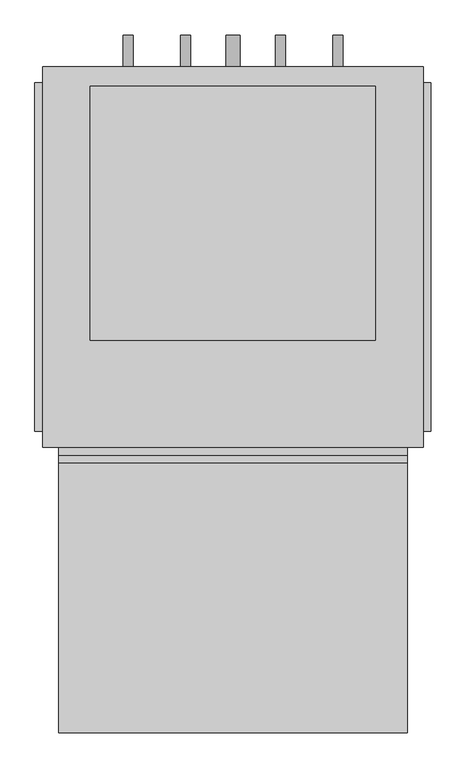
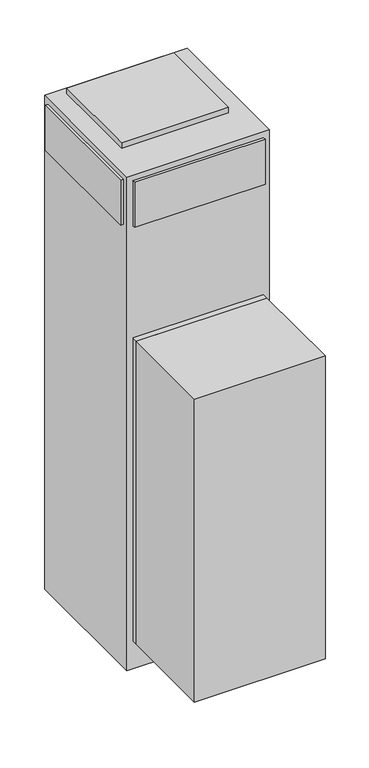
"""IFC4 building model written with IfcOpenShell, lengths in millimetres: proxy geometry, Concealed_Modular_Fan_Coil_Unit_-_MPY_-_IEC_-_4-Pipe_-_NoRisers_2022 : Size 12 - 277v/60Hz/1Ph - 4/1 Coil."""

from ifc_helpers import new_model, si_unit, point, frame, frame_2d, origin, origin_with_axes, place, context, project, spatial, polyline, circle_curve, trimmed, segment, composite_curve, outline, extrude, source, transform, mapped, element, save


def mechanical_equipment_7a065b04(model_context):
    return source(origin(), model_context, "Body", "SweptSolid", [
        extrude(outline(polyline([(1305.3480703, 215.9), (1295.4, 248.0733866), (1437.5709244, 248.0733866), (1414.5489183, 215.9), (1305.3480703, 215.9)])), frame((0.0, -393.7, 0.0), z_axis=(0.0, 1.0, 0.0), x_axis=(0.0, 0.0, 1.0)), (0.0, 0.0, 1.0), 3.175),
        extrude(outline(polyline([(1384.3473557, 254.8317195), (1381.1449632, 280.9131138), (1410.3738042, 280.9131138), (1418.4382193, 254.8317195), (1384.3473557, 254.8317195)])), frame((0.0, -393.7, 0.0), z_axis=(0.0, 1.0, 0.0), x_axis=(0.0, 0.0, 1.0)), (0.0, 0.0, 1.0), 3.175),
        extrude(outline(polyline([(1332.4838288, 280.9131138), (1328.8183279, 254.8317195), (1295.4, 254.8317195), (1304.0342372, 280.9131138), (1332.4838288, 280.9131138)])), frame((0.0, -393.7, 0.0), z_axis=(0.0, 1.0, 0.0), x_axis=(0.0, 0.0, 1.0)), (0.0, 0.0, 1.0), 3.175),
        extrude(outline(polyline([(1371.7989903, 280.9131138), (1374.0808166, 254.8317195), (1338.1432681, 254.8317195), (1340.8845331, 280.9131138), (1371.7989903, 280.9131138)])), frame((0.0, -393.7, 0.0), z_axis=(0.0, 1.0, 0.0), x_axis=(0.0, 0.0, 1.0)), (0.0, 0.0, 1.0), 3.175),
        extrude(outline(polyline([(736.6, -822.325), (177.8, -822.325), (177.8, -390.525), (736.6, -390.525), (736.6, -822.325)])), frame((0.0, 0.0, 127.0), z_axis=(0.0, 0.0, 1.0), x_axis=(1.0, 0.0, 0.0)), (0.0, 0.0, 1.0), 1371.6),
        extrude(outline(composite_curve([segment(trimmed(circle_curve(frame_2d((990.6, 625.475)), 7.9375), [point((990.6, 617.5375))], [point((990.6, 633.4125))], False, "CARTESIAN"), True, "CONTINUOUS"), segment(trimmed(circle_curve(frame_2d((990.6, 625.475)), 7.9375), [point((990.6, 633.4125))], [point((990.6, 617.5375))], False, "CARTESIAN"), True, "CONTINUOUS")], self_intersect=False)), frame((0.0, 244.475, 0.0), z_axis=(0.0, 1.0, 0.0), x_axis=(0.0, 0.0, 1.0)), (0.0, 0.0, 1.0), 50.8),
        extrude(outline(composite_curve([segment(trimmed(circle_curve(frame_2d((990.6, 533.4)), 7.9375), [point((990.6, 525.4625))], [point((990.6, 541.3375))], False, "CARTESIAN"), True, "CONTINUOUS"), segment(trimmed(circle_curve(frame_2d((990.6, 533.4)), 7.9375), [point((990.6, 541.3375))], [point((990.6, 525.4625))], False, "CARTESIAN"), True, "CONTINUOUS")], self_intersect=False)), frame((0.0, 244.475, 0.0), z_axis=(0.0, 1.0, 0.0), x_axis=(0.0, 0.0, 1.0)), (0.0, 0.0, 1.0), 50.8),
        extrude(outline(composite_curve([segment(trimmed(circle_curve(frame_2d((990.6, 381.0)), 7.9375), [point((990.6, 373.0625))], [point((990.6, 388.9375))], False, "CARTESIAN"), True, "CONTINUOUS"), segment(trimmed(circle_curve(frame_2d((990.6, 381.0)), 7.9375), [point((990.6, 388.9375))], [point((990.6, 373.0625))], False, "CARTESIAN"), True, "CONTINUOUS")], self_intersect=False)), frame((0.0, 244.475, 0.0), z_axis=(0.0, 1.0, 0.0), x_axis=(0.0, 0.0, 1.0)), (0.0, 0.0, 1.0), 50.8),
        extrude(outline(composite_curve([segment(trimmed(circle_curve(frame_2d((990.6, 288.925)), 7.9375), [point((990.6, 280.9875))], [point((990.6, 296.8625))], False, "CARTESIAN"), True, "CONTINUOUS"), segment(trimmed(circle_curve(frame_2d((990.6, 288.925)), 7.9375), [point((990.6, 296.8625))], [point((990.6, 280.9875))], False, "CARTESIAN"), True, "CONTINUOUS")], self_intersect=False)), frame((0.0, 244.475, 0.0), z_axis=(0.0, 1.0, 0.0), x_axis=(0.0, 0.0, 1.0)), (0.0, 0.0, 1.0), 50.8),
        extrude(outline(composite_curve([segment(trimmed(circle_curve(frame_2d((76.2, 457.2)), 11.1125), [point((76.2, 446.0875))], [point((76.2, 468.3125))], False, "CARTESIAN"), True, "CONTINUOUS"), segment(trimmed(circle_curve(frame_2d((76.2, 457.2)), 11.1125), [point((76.2, 468.3125))], [point((76.2, 446.0875))], False, "CARTESIAN"), True, "CONTINUOUS")], self_intersect=False)), frame((0.0, 244.475, 0.0), z_axis=(0.0, 1.0, 0.0), x_axis=(0.0, 0.0, 1.0)), (0.0, 0.0, 1.0), 50.8),
        extrude(outline(polyline([(685.8, 212.725), (685.8, -193.675), (228.6, -193.675), (228.6, 212.725), (685.8, 212.725)])), frame((0.0, 0.0, 2235.2), z_axis=(0.0, 0.0, 1.0), x_axis=(1.0, 0.0, 0.0)), (0.0, 0.0, 1.0), 25.4),
        extrude(outline(polyline([(139.7, -339.725), (139.7, 219.075), (152.4, 219.075), (152.4, -339.725), (139.7, -339.725)])), frame((0.0, 0.0, 2006.6), z_axis=(0.0, 0.0, 1.0), x_axis=(1.0, 0.0, 0.0)), (0.0, 0.0, 1.0), 203.2),
        extrude(outline(polyline([(774.7, 219.075), (774.7, -339.725), (762.0, -339.725), (762.0, 219.075), (774.7, 219.075)])), frame((0.0, 0.0, 2006.6), z_axis=(0.0, 0.0, 1.0), x_axis=(1.0, 0.0, 0.0)), (0.0, 0.0, 1.0), 203.2),
        extrude(outline(polyline([(736.6, -377.825), (177.8, -377.825), (177.8, -365.125), (736.6, -365.125), (736.6, -377.825)])), frame((0.0, 0.0, 2006.6), z_axis=(0.0, 0.0, 1.0), x_axis=(1.0, 0.0, 0.0)), (0.0, 0.0, 1.0), 203.2),
        extrude(outline(polyline([(736.6, -390.525), (177.8, -390.525), (177.8, -365.125), (736.6, -365.125), (736.6, -390.525)])), frame((0.0, 0.0, 127.0), z_axis=(0.0, 0.0, 1.0), x_axis=(1.0, 0.0, 0.0)), (0.0, 0.0, 1.0), 1371.6),
        extrude(outline(polyline([(762.0, 244.475), (762.0, -365.125), (152.4, -365.125), (152.4, 244.475), (762.0, 244.475)])), origin_with_axes(), (0.0, 0.0, 1.0), 2235.2),
    ])


if __name__ == "__main__":
    model = new_model("IFC4")
    model_context = context("Model", 3, world=origin())
    ifc_project = project(units=[si_unit("LENGTHUNIT", "METRE", prefix="MILLI")], contexts=[model_context])
    site = spatial("IfcSite", under=ifc_project)
    building = spatial("IfcBuilding", under=site)
    placement = place(None, origin())
    mechanical_equipment_shape = mechanical_equipment_7a065b04(model_context)
    element("IfcBuildingElementProxy", 1, Name="Concealed_Modular_Fan_Coil_Unit_-_MPY_-_IEC_-_4-Pipe_-_NoRisers_2022 : Size 12 - 277v/60Hz/1Ph - 4/1 Coil", ObjectType="Concealed_Modular_Fan_Coil_Unit_-_MPY_-_IEC_-_4-Pipe_-_NoRisers_2022 : Size 12 - 277v/60Hz/1Ph - 4/1 Coil", at=placement, inside=building, context=model_context, shape_type="MappedRepresentation", body=[
        mapped(mechanical_equipment_shape, transform((0.0, 0.0, 0.0), x_axis=(1.0, 0.0, 0.0), y_axis=(0.0, 1.0, 0.0), z_axis=(0.0, 0.0, 1.0))),
    ])
    save(model, "model.ifc")
